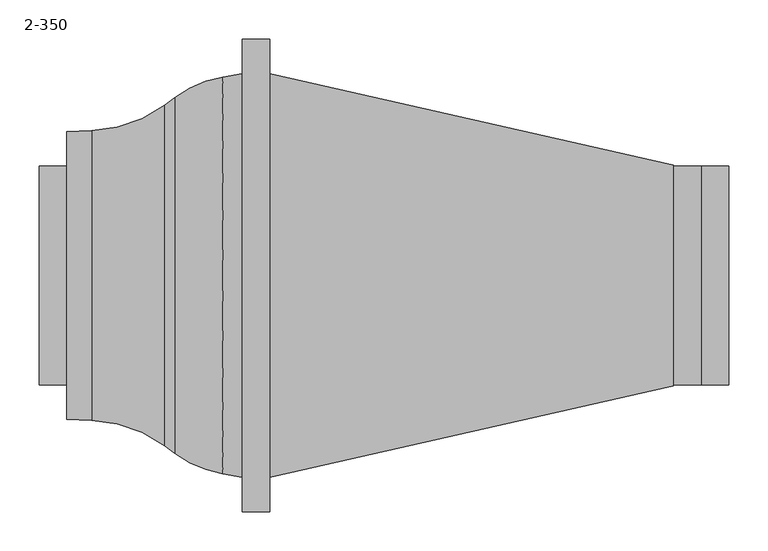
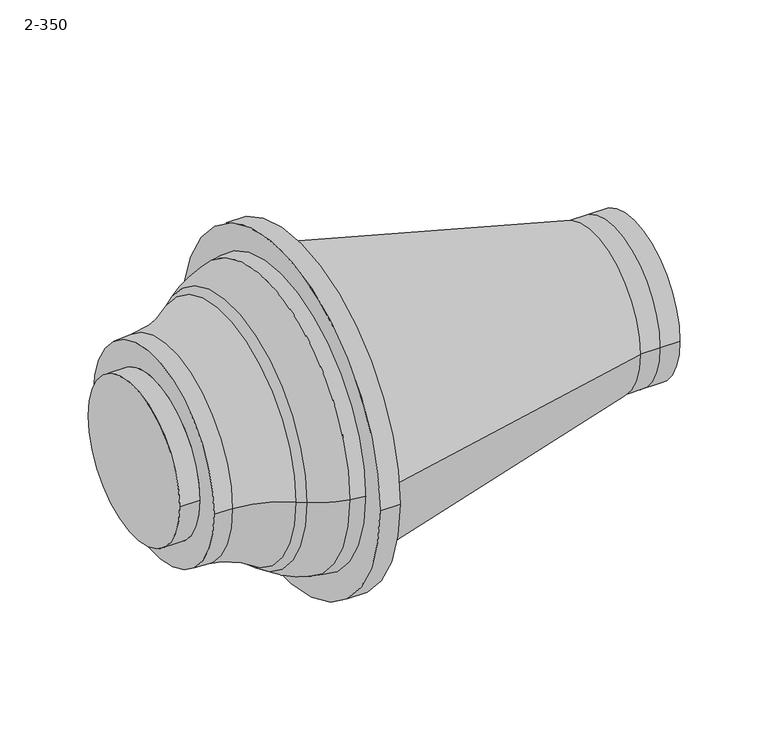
"""IFC4 building model written with IfcOpenShell, lengths in millimetres: unitary equipment geometry, VE-Wentylator-ParaForma-Harmann-VITT_L-Wywiewny : 2-350."""

from ifc_helpers import new_model, si_unit, point, frame, origin, origin_2d, place, context, project, spatial, polyline, circle_curve, ellipse_curve, trimmed, segment, composite_curve, outline, extrude, source, transform, mapped, element, save
from ifc_brep_helpers import plane_surface, cylinder_surface, revolved_surface, advanced_brep


def unitary_equipment_2_350_30a01064(model_context):
    return source(origin(), model_context, "Body", "SolidModel", [
        advanced_brep(
        [(-35.0, -256.2, 0.0), (-35.0, 256.2, 0.0), (-257.5, 182.6, 0.0), (-257.5, -182.6, 0.0), (-257.5, 139.0, 0.0), (-257.5, -139.0, 0.0), (-120.4, -226.2, 0.0), (-133.6, -216.5, 0.0), (-133.6, 216.5, 0.0), (-120.4, 226.2, 0.0), (-59.6, -252.0, 0.0), (-59.6, 252.0, 0.0), (-226.3, -183.9, 0.0), (-226.3, 183.9, 0.0), (-292.5, -139.0, 0.0), (-292.5, 139.0, 0.0)],
        [
            (0, 1, circle_curve(frame((-35.0, 0.0, 0.0), z_axis=(1.0, 0.0, 0.0), x_axis=(0.0, 0.9999999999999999, 0.0)), 256.2)),
            (1, 0, circle_curve(frame((-35.0, 0.0, 0.0), z_axis=(1.0, 0.0, 0.0), x_axis=(0.0, 0.9999999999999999, 0.0)), 256.2)),
            (2, 3, circle_curve(frame((-257.5, 0.0, 0.0), z_axis=(-1.0, 0.0, 0.0), x_axis=(0.0, 0.9999999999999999, 0.0)), 182.6)),
            (3, 2, circle_curve(frame((-257.5, 0.0, 0.0), z_axis=(-1.0, 0.0, 0.0), x_axis=(0.0, 0.9999999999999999, 0.0)), 182.6)),
            (4, 5, circle_curve(frame((-257.5, 0.0, 0.0), z_axis=(1.0, 0.0, 0.0), x_axis=(0.0, 0.9999999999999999, 0.0)), 139.0)),
            (5, 4, circle_curve(frame((-257.5, 0.0, 0.0), z_axis=(1.0, 0.0, 0.0), x_axis=(0.0, 0.9999999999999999, 0.0)), 139.0)),
            (6, 7),
            (7, 8, circle_curve(frame((-133.6, 0.0, 0.0), z_axis=(1.0, 0.0, 0.0), x_axis=(0.0, 0.9999999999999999, 0.0)), 216.5)),
            (8, 9),
            (9, 6, circle_curve(frame((-120.4, 0.0, 0.0), z_axis=(-1.0, 0.0, 0.0), x_axis=(0.0, 0.9999999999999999, 0.0)), 226.2)),
            (6, 9, circle_curve(frame((-120.4, 0.0, 0.0), z_axis=(-1.0, 0.0, 0.0), x_axis=(0.0, 0.9999999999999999, 0.0)), 226.2)),
            (8, 7, circle_curve(frame((-133.6, 0.0, 0.0), z_axis=(1.0, 0.0, 0.0), x_axis=(0.0, 0.9999999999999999, 0.0)), 216.5)),
            (0, 10),
            (10, 11, circle_curve(frame((-59.6, 0.0, 0.0), z_axis=(1.0, 0.0, 0.0), x_axis=(0.0, 0.9999999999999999, 0.0)), 252.0)),
            (11, 1),
            (11, 10, circle_curve(frame((-59.6, 0.0, 0.0), z_axis=(1.0, 0.0, 0.0), x_axis=(0.0, 0.9999999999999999, 0.0)), 252.0)),
            (12, 3),
            (2, 13),
            (13, 12, circle_curve(frame((-226.3, 0.0, 0.0), z_axis=(-1.0, 0.0, 0.0), x_axis=(0.0, 0.9999999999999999, 0.0)), 183.9)),
            (12, 13, circle_curve(frame((-226.3, 0.0, 0.0), z_axis=(-1.0, 0.0, 0.0), x_axis=(0.0, 0.9999999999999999, 0.0)), 183.9)),
            (7, 12, circle_curve(frame((-233.4823608, -352.4223879, 0.0), z_axis=(0.0, 0.0, 1.0000000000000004), x_axis=(0.9999999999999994, 0.0, 0.0)), 168.6753732)),
            (13, 8, circle_curve(frame((-233.4823608, 352.4223879, 0.0), z_axis=(0.0, 0.0, 1.0000000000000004), x_axis=(0.9999999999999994, 0.0, 0.0)), 168.6753732)),
            (9, 11, circle_curve(frame((-35.5000883, 110.6660995, 0.0), z_axis=(0.0, 0.0, -1.0000000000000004), x_axis=(0.9999999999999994, 0.0, 0.0)), 143.3739069)),
            (10, 6, circle_curve(frame((-35.5000883, -110.6660995, 0.0), z_axis=(0.0, 0.0, -1.0000000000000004), x_axis=(0.9999999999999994, 0.0, 0.0)), 143.3739069)),
            (14, 15, circle_curve(frame((-292.5, 0.0, 0.0), z_axis=(-1.0, 0.0, 0.0), x_axis=(0.0, 0.9999999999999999, 0.0)), 139.0)),
            (15, 14, circle_curve(frame((-292.5, 0.0, 0.0), z_axis=(-1.0, 0.0, 0.0), x_axis=(0.0, 0.9999999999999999, 0.0)), 139.0)),
            (14, 5),
            (4, 15),
        ],
        [
            plane_surface(frame((-35.0, 0.0, 0.0), z_axis=(1.0, 0.0, 0.0), x_axis=(0.0, 0.0, -1.0))),
            plane_surface(frame((-257.5, 0.0, 0.0), z_axis=(-1.0, 0.0, 0.0), x_axis=(0.0, 0.0, -1.0))),
            revolved_surface(polyline([(-120.4, 226.2, 0.0), (-133.6, 216.5, 0.0)]), (-257.5, 0.0, 0.0), (-0.9999999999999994, 0.0, 0.0)),
            revolved_surface(polyline([(-35.0, 256.2, 0.0), (-59.6, 252.0, 0.0)]), (-257.5, 0.0, 0.0), (-0.9999999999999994, 0.0, 0.0)),
            revolved_surface(polyline([(-226.3, 183.9, 0.0), (-257.5, 182.6, 0.0)]), (-257.5, 0.0, 0.0), (-0.9999999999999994, 0.0, 0.0)),
            revolved_surface(trimmed(ellipse_curve(frame((-233.4823608, 352.4223879, 0.0), z_axis=(0.0, 0.0, -1.0000000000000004), x_axis=(0.9999999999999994, 0.0, 0.0)), 168.6753732, 168.6753732), [point((-133.6, 216.5, 0.0))], [point((-226.3, 183.9, 0.0))], True, "CARTESIAN"), (-257.5, 0.0, 0.0), (-0.9999999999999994, 0.0, 0.0)),
            revolved_surface(trimmed(ellipse_curve(frame((-35.5000883, 110.6660995, 0.0), z_axis=(0.0, 0.0, 1.0000000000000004), x_axis=(0.9999999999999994, 0.0, 0.0)), 143.3739069, 143.3739069), [point((-59.6, 252.0, 0.0))], [point((-120.4, 226.2, 0.0))], True, "CARTESIAN"), (-257.5, 0.0, 0.0), (-0.9999999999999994, 0.0, 0.0)),
            plane_surface(frame((-292.5, 0.0, 0.0), z_axis=(-1.0, 0.0, 0.0), x_axis=(0.0, 0.0, 1.0))),
            cylinder_surface(frame((-292.5, 0.0, 0.0), z_axis=(-0.9999999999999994, 0.0, 0.0), x_axis=(0.0, 0.9999999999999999, 0.0)), 139.0),
        ],
        [
            (0, [[1, 2]]),
            (1, [[3, 4], [5, 6]]),
            (2, [[7, 8, 9, 10]]),
            (2, [[-7, 11, -9, 12]]),
            (3, [[13, 14, 15, -1]]),
            (3, [[-13, -2, -15, 16]]),
            (4, [[17, -3, 18, 19]]),
            (4, [[-17, 20, -18, -4]]),
            (5, [[-8, 21, -19, 22]]),
            (5, [[-12, -22, -20, -21]]),
            (6, [[-10, 23, -14, 24]]),
            (6, [[-11, -24, -16, -23]]),
            (7, [[25, 26]]),
            (8, [[-25, 27, -5, 28]]),
            (8, [[-26, -28, -6, -27]]),
        ],
    ),
        advanced_brep(
        [(512.5, -140.0, 0.0), (512.5, 140.0, 0.0), (512.5, -139.0, 0.0), (512.5, 139.0, 0.0), (0.0, -256.25, 0.0), (0.0, 256.25, 0.0), (547.5, -139.0, 0.0), (547.5, 139.0, 0.0), (582.5, -139.0, 0.0), (582.5, 139.0, 0.0)],
        [
            (0, 1, circle_curve(frame((512.5, 0.0, 0.0), z_axis=(1.0, 0.0, 0.0), x_axis=(0.0, -0.9999999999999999, 0.0)), 140.0)),
            (1, 0, circle_curve(frame((512.5, 0.0, 0.0), z_axis=(1.0, 0.0, 0.0), x_axis=(0.0, 0.9999999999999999, 0.0)), 140.0)),
            (2, 3, circle_curve(frame((512.5, 0.0, 0.0), z_axis=(-1.0, 0.0, 0.0), x_axis=(0.0, 0.9999999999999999, 0.0)), 139.0)),
            (3, 2, circle_curve(frame((512.5, 0.0, 0.0), z_axis=(-1.0, 0.0, 0.0), x_axis=(0.0, 0.9999999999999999, 0.0)), 139.0)),
            (4, 5, circle_curve(frame((0.0, 0.0, 0.0), z_axis=(-1.0, 0.0, 0.0), x_axis=(0.0, 0.9999999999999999, 0.0)), 256.25)),
            (5, 4, circle_curve(frame((0.0, 0.0, 0.0), z_axis=(-1.0, 0.0, 0.0), x_axis=(0.0, -0.9999999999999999, 0.0)), 256.25)),
            (0, 4),
            (5, 1),
            (2, 6),
            (6, 7, circle_curve(frame((547.5, 0.0, 0.0), z_axis=(-1.0, 0.0, 0.0), x_axis=(0.0, 0.9999999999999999, 0.0)), 139.0)),
            (7, 3),
            (7, 6, circle_curve(frame((547.5, 0.0, 0.0), z_axis=(-1.0, 0.0, 0.0), x_axis=(0.0, 0.9999999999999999, 0.0)), 139.0)),
            (8, 9, circle_curve(frame((582.5, 0.0, 0.0), z_axis=(1.0, 0.0, 0.0), x_axis=(0.0, 0.9999999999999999, 0.0)), 139.0)),
            (9, 8, circle_curve(frame((582.5, 0.0, 0.0), z_axis=(1.0, 0.0, 0.0), x_axis=(0.0, 0.9999999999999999, 0.0)), 139.0)),
            (9, 7),
            (6, 8),
        ],
        [
            plane_surface(frame((512.5, 0.0, 0.0), z_axis=(1.0, 0.0, 0.0), x_axis=(0.0, 0.0, -1.0))),
            plane_surface(frame((0.0, 0.0, 0.0), z_axis=(-1.0, 0.0, 0.0), x_axis=(0.0, 0.0, -1.0))),
            revolved_surface(polyline([(512.5, -140.00000000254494, 0.0), (0.0, -256.25, 0.0)]), (1129.7043011, 0.0, 0.0), (-0.9999999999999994, 0.0, 0.0)),
            revolved_surface(polyline([(512.5, 140.00000000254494, 0.0), (0.0, 256.25, 0.0)]), (1129.7043011, 0.0, 0.0), (-0.9999999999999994, 0.0, 0.0)),
            cylinder_surface(frame((512.5, 0.0, 0.0), z_axis=(-0.9999999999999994, 0.0, 0.0), x_axis=(0.0, 0.9999999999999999, 0.0)), 139.0),
            plane_surface(frame((582.5, 0.0, 0.0), z_axis=(1.0, 0.0, 0.0), x_axis=(0.0, 0.0, 1.0))),
        ],
        [
            (0, [[1, 2], [3, 4]]),
            (1, [[5, 6]]),
            (2, [[-1, 7, -6, 8]]),
            (3, [[-2, -8, -5, -7]]),
            (4, [[9, 10, 11, -3]]),
            (4, [[-9, -4, -11, 12]]),
            (5, [[13, 14]]),
            (4, [[-14, 15, -10, 16]]),
            (4, [[-13, -16, -12, -15]]),
        ],
    ),
        extrude(outline(composite_curve([segment(trimmed(circle_curve(origin_2d(), 300.0), [point((-300.0, 0.0))], [point((300.0, 0.0))], False, "CARTESIAN"), True, "CONTINUOUS"), segment(trimmed(circle_curve(origin_2d(), 300.0), [point((300.0, 0.0))], [point((-300.0, 0.0))], False, "CARTESIAN"), True, "CONTINUOUS")], self_intersect=False)), frame((-35.0, 0.0, 0.0), z_axis=(1.0, 0.0, 0.0), x_axis=(0.0, 1.0, 0.0)), (0.0, 0.0, 1.0), 35.0),
    ])


if __name__ == "__main__":
    model = new_model("IFC4")
    model_context = context("Model", 3, world=origin())
    ifc_project = project(units=[si_unit("LENGTHUNIT", "METRE", prefix="MILLI")], contexts=[model_context])
    site = spatial("IfcSite", under=ifc_project)
    building = spatial("IfcBuilding", under=site)
    placement = place(None, origin())
    unitary_equipment_2_350_shape = unitary_equipment_2_350_30a01064(model_context)
    element("IfcUnitaryEquipment", 1, ObjectType="VE-Wentylator-ParaForma-Harmann-VITT_L-Wywiewny : 2-350", at=placement, inside=building, context=model_context, shape_type="MappedRepresentation", body=[
        mapped(unitary_equipment_2_350_shape, transform((0.0, 0.0, 0.0), x_axis=(1.0, 0.0, 0.0), y_axis=(0.0, 1.0, 0.0), z_axis=(0.0, 0.0, 1.0))),
    ])
    save(model, "model.ifc")
